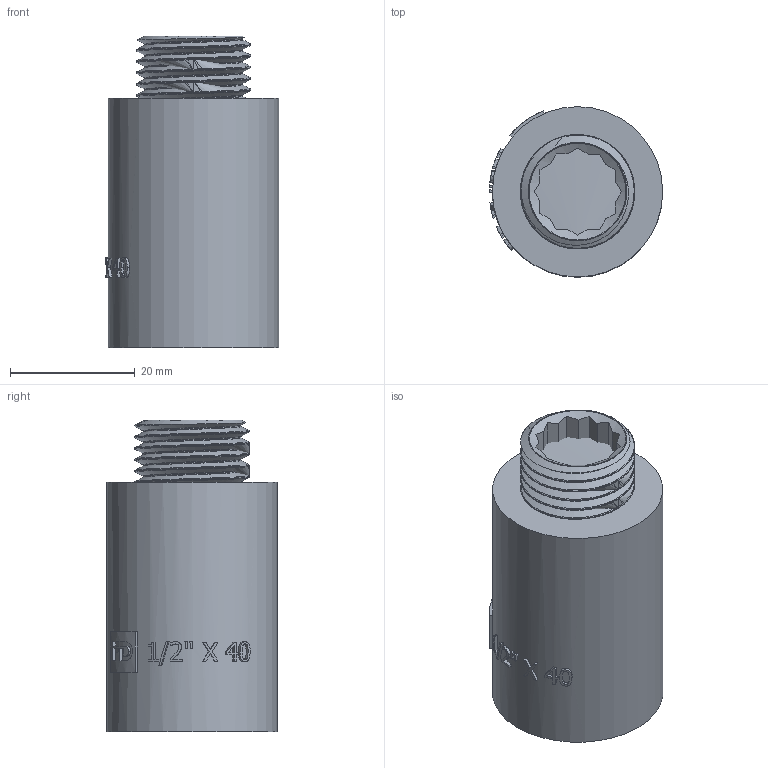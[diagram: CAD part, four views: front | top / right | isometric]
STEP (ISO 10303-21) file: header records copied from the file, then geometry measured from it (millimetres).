
FILE_DESCRIPTION(/* description */ (''),/* implementation_level */ '2;1');
FILE_NAME(/* name */ 'C:\Users\Doom\Desktop\Фадотех\Резьба\UD40 20.03.2020\UD40 20.03.2020.stp',/* time_stamp */ '2022-01-22T11:31:00+02:00',/* author */ ('Doom'),/* organization */ (''),/* preprocessor_version */ 'ST-DEVELOPER v18',/* originating_system */ 'Autodesk Inventor 2020',/* authorisation */ '');
FILE_SCHEMA (('AUTOMOTIVE_DESIGN { 1 0 10303 214 3 1 1 }'));
Length unit declared in the file: millimetre
Products named in the file (1): UD30 18.03.2020
Bounding box: 27.8 x 27.3 x 50 mm (x, y, z)
Volume: 15110 mm3; surface area: 12916.4 mm2
Topology: 3 solids, 3 shells, 189 faces, 511 edges, 342 vertices
Faces by surface type: plane 88, bspline 57, cylinder 41, cone 3
Full cylindrical faces by diameter (mm): 15.649 x2, 16.858 x1, 18.26 x11, 18.34 x6, 20.95 x2, 21.5 x1, 27.3 x1
Entity records: 15427 total; most frequent: CARTESIAN_POINT 11153, ORIENTED_EDGE 1014, DIRECTION 666, EDGE_CURVE 507, VERTEX_POINT 340, AXIS2_PLACEMENT_3D 236, EDGE_LOOP 211, LINE 194
